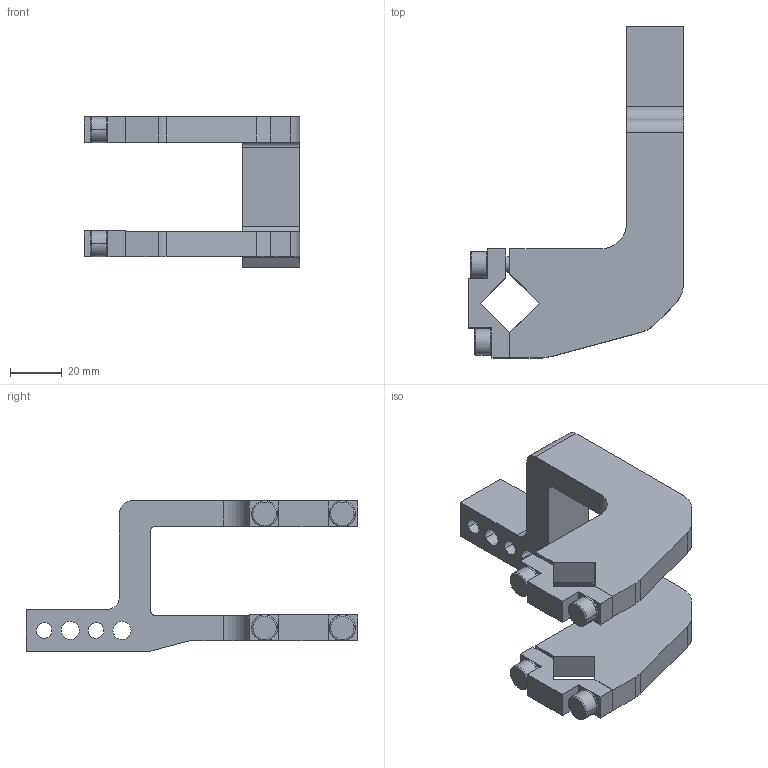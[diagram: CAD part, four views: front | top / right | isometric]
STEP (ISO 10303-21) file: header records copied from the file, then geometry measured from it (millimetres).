
FILE_DESCRIPTION(('CATIA V5 STEP Exchange'),'2;1');
FILE_NAME('E:\clampact\CLAMPACT\clampact\catalog\Clampact Arm\Arm 3D\Clampact Arm\arm_K40_45_A51_Clampact.stp','2022-12-06T07:44:13+00:00',('none'),('none'),'CATIA Version 5 Release 19 SP 6 (IN-10)','CATIA V5 STEP AP203','none');
FILE_SCHEMA(('CONFIG_CONTROL_DESIGN'));
Length unit declared in the file: millimetre
Products named in the file (1): K40_45_A51_Clampact_柯莱普
Bounding box: 83 x 128 x 58 mm (x, y, z)
Volume: 94754.4 mm3; surface area: 30472.1 mm2
Topology: 1 solids, 5 shells, 163 faces, 411 edges, 258 vertices
Faces by surface type: plane 78, cylinder 53, cone 20, torus 12
Entity records: 4704 total; most frequent: CARTESIAN_POINT 1012, ORIENTED_EDGE 806, DIRECTION 618, EDGE_CURVE 403, VERTEX_POINT 258, AXIS2_PLACEMENT_3D 256, VECTOR 242, LINE 242
